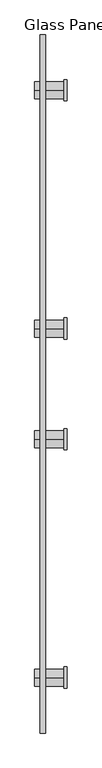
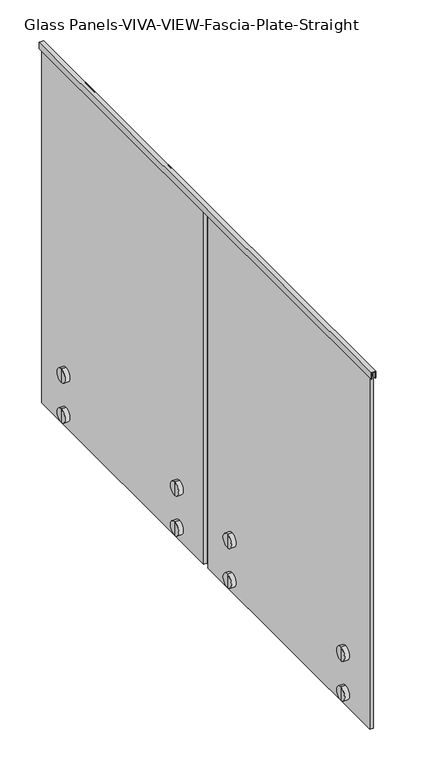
"""IFC4 building model written with IfcOpenShell, lengths in millimetres: railing geometry, Glass Panels-VIVA-VIEW-Fascia-Plate-Straight."""

from ifc_helpers import new_model, si_unit, point, frame, frame_2d, origin, place, context, project, spatial, polyline, circle_curve, trimmed, segment, composite_curve, outline, extrude, source, transform, mapped, element, save
from ifc_brep_helpers import plane_surface, cylinder_surface, advanced_brep


def glass_panels_viva_view_fascia_plate_straight_a56d03df(model_context):
    return source(origin(), model_context, "Body", "SolidModel", [
        extrude(outline(polyline([(4140.2, 38813.6017902), (4140.2, 38797.7267902), (4114.8, 38797.7267902), (4114.8, 38799.3142902), (4138.6125, 38799.3142902), (4138.6125, 38812.0142902), (4114.8, 38812.0142902), (4114.8, 38813.6017902), (4140.2, 38813.6017902)])), frame((0.0, -10275.2843115, 0.0), z_axis=(0.0, 1.0, 0.0), x_axis=(0.0, 0.0, 1.0)), (0.0, 0.0, 1.0), 2082.8),
        advanced_brep(
        [(38781.8520842, -9068.4012649, 2794.0), (38781.8520842, -9068.4012649, 2819.4), (38781.8520842, -9068.4012649, 2844.8), (38799.3145842, -9068.4012649, 2794.0), (38799.3145842, -9068.4012649, 2844.8), (38799.3145842, -9068.4012649, 2813.685), (38799.3145842, -9068.4012649, 2825.115), (38812.0145842, -9068.4012649, 2813.685), (38812.0145842, -9068.4012649, 2825.115), (38812.0145842, -9068.4012649, 2794.0), (38812.0145842, -9068.4012649, 2844.8), (38869.1644372, -9068.4012649, 2794.0), (38869.1644372, -9068.4012649, 2844.8), (38869.1644372, -9068.4012649, 2819.4)],
        [
            (0, 1),
            (1, 2),
            (2, 0, circle_curve(frame((38781.8520842, -9068.4012649, 2819.4), z_axis=(-1.0, 0.0, 0.0), x_axis=(0.0, 0.0, 1.0)), 25.4)),
            (0, 2, circle_curve(frame((38781.8520842, -9068.4012649, 2819.4), z_axis=(-1.0, 0.0, 0.0), x_axis=(0.0, 0.0, 1.0)), 25.4)),
            (3, 0),
            (2, 4),
            (4, 3, circle_curve(frame((38799.3145842, -9068.4012649, 2819.4), z_axis=(-1.0, 0.0, 0.0), x_axis=(0.0, 0.0, 1.0)), 25.4)),
            (3, 4, circle_curve(frame((38799.3145842, -9068.4012649, 2819.4), z_axis=(-1.0, 0.0, 0.0), x_axis=(0.0, 0.0, 1.0)), 25.4)),
            (5, 3),
            (4, 6),
            (6, 5, circle_curve(frame((38799.3145842, -9068.4012649, 2819.4), z_axis=(-1.0, 0.0, 0.0), x_axis=(0.0, 0.0, 1.0)), 5.715)),
            (5, 6, circle_curve(frame((38799.3145842, -9068.4012649, 2819.4), z_axis=(-1.0, 0.0, 0.0), x_axis=(0.0, 0.0, 1.0)), 5.715)),
            (7, 5),
            (6, 8),
            (8, 7, circle_curve(frame((38812.0145842, -9068.4012649, 2819.4), z_axis=(-1.0, 0.0, 0.0), x_axis=(0.0, 0.0, 1.0)), 5.715)),
            (7, 8, circle_curve(frame((38812.0145842, -9068.4012649, 2819.4), z_axis=(-1.0, 0.0, 0.0), x_axis=(0.0, 0.0, 1.0)), 5.715)),
            (9, 7),
            (8, 10),
            (10, 9, circle_curve(frame((38812.0145842, -9068.4012649, 2819.4), z_axis=(-1.0, 0.0, 0.0), x_axis=(0.0, 0.0, 1.0)), 25.4)),
            (9, 10, circle_curve(frame((38812.0145842, -9068.4012649, 2819.4), z_axis=(-1.0, 0.0, 0.0), x_axis=(0.0, 0.0, 1.0)), 25.4)),
            (11, 9),
            (10, 12),
            (12, 11, circle_curve(frame((38869.1644372, -9068.4012649, 2819.4), z_axis=(-1.0, 0.0, 0.0), x_axis=(0.0, 0.0, 1.0)), 25.4)),
            (11, 12, circle_curve(frame((38869.1644372, -9068.4012649, 2819.4), z_axis=(-1.0, 0.0, 0.0), x_axis=(0.0, 0.0, 1.0)), 25.4)),
            (13, 11),
            (12, 13),
        ],
        [
            plane_surface(frame((38781.8520842, -9068.4012649, 2819.4), z_axis=(-1.0, 0.0, 0.0), x_axis=(0.0, 0.0, 1.0))),
            cylinder_surface(frame((38713.5894372, -9068.4012649, 2819.4), z_axis=(1.0, 0.0, 0.0), x_axis=(0.0, 0.0, 1.0)), 25.4),
            plane_surface(frame((38799.3145842, -9068.4012649, 2819.4), z_axis=(1.0, 0.0, 0.0), x_axis=(0.0, 0.0, 1.0))),
            cylinder_surface(frame((38713.5894372, -9068.4012649, 2819.4), z_axis=(1.0, 0.0, 0.0), x_axis=(0.0, 0.0, 1.0)), 5.715),
            plane_surface(frame((38812.0145842, -9068.4012649, 2819.4), z_axis=(-1.0, 0.0, 0.0), x_axis=(0.0, 0.0, 1.0))),
            plane_surface(frame((38869.1644372, -9068.4012649, 2819.4), z_axis=(1.0, 0.0, 0.0), x_axis=(0.0, 0.0, 1.0))),
        ],
        [
            (0, [[1, 2, 3]]),
            (0, [[-2, -1, 4]]),
            (1, [[5, -3, 6, 7]]),
            (1, [[-6, -4, -5, 8]]),
            (2, [[9, -7, 10, 11]]),
            (2, [[-10, -8, -9, 12]]),
            (3, [[13, -11, 14, 15]]),
            (3, [[-14, -12, -13, 16]]),
            (4, [[17, -15, 18, 19]]),
            (4, [[-18, -16, -17, 20]]),
            (1, [[21, -19, 22, 23]]),
            (1, [[-22, -20, -21, 24]]),
            (5, [[25, -23, 26]]),
            (5, [[-26, -24, -25]]),
        ],
    ),
        advanced_brep(
        [(38799.3145842, -9068.4012649, 2966.085), (38799.3145842, -9068.4012649, 2946.4), (38799.3145842, -9068.4012649, 2997.2), (38799.3145842, -9068.4012649, 2977.515), (38812.0145842, -9068.4012649, 2966.085), (38812.0145842, -9068.4012649, 2977.515), (38812.0145842, -9068.4012649, 2946.4), (38812.0145842, -9068.4012649, 2997.2), (38869.1644372, -9068.4012649, 2946.4), (38869.1644372, -9068.4012649, 2997.2), (38869.1644372, -9068.4012649, 2971.8), (38781.8520842, -9068.4012649, 2946.4), (38781.8520842, -9068.4012649, 2971.8), (38781.8520842, -9068.4012649, 2997.2)],
        [
            (0, 1),
            (1, 2, circle_curve(frame((38799.3145842, -9068.4012649, 2971.8), z_axis=(1.0, 0.0, 0.0), x_axis=(0.0, 0.0, 1.0)), 25.4)),
            (2, 3),
            (3, 0, circle_curve(frame((38799.3145842, -9068.4012649, 2971.8), z_axis=(-1.0, 0.0, 0.0), x_axis=(0.0, 0.0, 1.0)), 5.715)),
            (2, 1, circle_curve(frame((38799.3145842, -9068.4012649, 2971.8), z_axis=(1.0, 0.0, 0.0), x_axis=(0.0, 0.0, 1.0)), 25.4)),
            (0, 3, circle_curve(frame((38799.3145842, -9068.4012649, 2971.8), z_axis=(-1.0, 0.0, 0.0), x_axis=(0.0, 0.0, 1.0)), 5.715)),
            (4, 0),
            (3, 5),
            (5, 4, circle_curve(frame((38812.0145842, -9068.4012649, 2971.8), z_axis=(-1.0, 0.0, 0.0), x_axis=(0.0, 0.0, 1.0)), 5.715)),
            (4, 5, circle_curve(frame((38812.0145842, -9068.4012649, 2971.8), z_axis=(-1.0, 0.0, 0.0), x_axis=(0.0, 0.0, 1.0)), 5.715)),
            (6, 4),
            (5, 7),
            (7, 6, circle_curve(frame((38812.0145842, -9068.4012649, 2971.8), z_axis=(-1.0, 0.0, 0.0), x_axis=(0.0, 0.0, 1.0)), 25.4)),
            (6, 7, circle_curve(frame((38812.0145842, -9068.4012649, 2971.8), z_axis=(-1.0, 0.0, 0.0), x_axis=(0.0, 0.0, 1.0)), 25.4)),
            (8, 6),
            (7, 9),
            (9, 8, circle_curve(frame((38869.1644372, -9068.4012649, 2971.8), z_axis=(-1.0, 0.0, 0.0), x_axis=(0.0, 0.0, 1.0)), 25.4)),
            (8, 9, circle_curve(frame((38869.1644372, -9068.4012649, 2971.8), z_axis=(-1.0, 0.0, 0.0), x_axis=(0.0, 0.0, 1.0)), 25.4)),
            (10, 8),
            (9, 10),
            (11, 12),
            (12, 13),
            (13, 11, circle_curve(frame((38781.8520842, -9068.4012649, 2971.8), z_axis=(-1.0, 0.0, 0.0), x_axis=(0.0, 0.0, 1.0)), 25.4)),
            (11, 13, circle_curve(frame((38781.8520842, -9068.4012649, 2971.8), z_axis=(-1.0, 0.0, 0.0), x_axis=(0.0, 0.0, 1.0)), 25.4)),
            (1, 11),
            (13, 2),
        ],
        [
            plane_surface(frame((38799.3145842, -9068.4012649, 2971.8), z_axis=(1.0, 0.0, 0.0), x_axis=(0.0, 0.0, 1.0))),
            cylinder_surface(frame((38713.5894372, -9068.4012649, 2971.8), z_axis=(1.0, 0.0, 0.0), x_axis=(0.0, 0.0, 1.0)), 5.715),
            plane_surface(frame((38812.0145842, -9068.4012649, 2971.8), z_axis=(-1.0, 0.0, 0.0), x_axis=(0.0, 0.0, 1.0))),
            cylinder_surface(frame((38713.5894372, -9068.4012649, 2971.8), z_axis=(1.0, 0.0, 0.0), x_axis=(0.0, 0.0, 1.0)), 25.4),
            plane_surface(frame((38869.1644372, -9068.4012649, 2971.8), z_axis=(1.0, 0.0, 0.0), x_axis=(0.0, 0.0, 1.0))),
            plane_surface(frame((38781.8520842, -9068.4012649, 2971.8), z_axis=(-1.0, 0.0, 0.0), x_axis=(0.0, 0.0, 1.0))),
        ],
        [
            (0, [[1, 2, 3, 4]]),
            (0, [[-3, 5, -1, 6]]),
            (1, [[7, -4, 8, 9]]),
            (1, [[-8, -6, -7, 10]]),
            (2, [[11, -9, 12, 13]]),
            (2, [[-12, -10, -11, 14]]),
            (3, [[15, -13, 16, 17]]),
            (3, [[-16, -14, -15, 18]]),
            (4, [[19, -17, 20]]),
            (4, [[-20, -18, -19]]),
            (5, [[21, 22, 23]]),
            (5, [[-22, -21, 24]]),
            (3, [[25, -23, 26, -2]]),
            (3, [[-26, -24, -25, -5]]),
        ],
    ),
        extrude(outline(composite_curve([segment(trimmed(circle_curve(frame_2d((-9068.4012649, 2971.8)), 31.75), [point((-9100.1512649, 2971.8))], [point((-9036.6512649, 2971.8))], False, "CARTESIAN"), True, "CONTINUOUS"), segment(polyline([(-9036.6512649, 2971.8), (-9036.6512649, 2819.4)]), True, "CONTINUOUS"), segment(trimmed(circle_curve(frame_2d((-9068.4012649, 2819.4)), 31.75), [point((-9036.6512649, 2819.4))], [point((-9100.1512649, 2819.4))], False, "CARTESIAN"), True, "CONTINUOUS"), segment(polyline([(-9100.1512649, 2819.4), (-9100.1512649, 2971.8)]), True, "CONTINUOUS")], self_intersect=False)), frame((38869.1644372, 0.0, 0.0), z_axis=(1.0, 0.0, 0.0), x_axis=(0.0, 1.0, 0.0)), (0.0, 0.0, 1.0), 9.525),
        advanced_brep(
        [(38781.8520842, -8357.2012649, 2794.0), (38781.8520842, -8357.2012649, 2819.4), (38781.8520842, -8357.2012649, 2844.8), (38799.3145842, -8357.2012649, 2794.0), (38799.3145842, -8357.2012649, 2844.8), (38799.3145842, -8357.2012649, 2813.685), (38799.3145842, -8357.2012649, 2825.115), (38812.0145842, -8357.2012649, 2813.685), (38812.0145842, -8357.2012649, 2825.115), (38812.0145842, -8357.2012649, 2794.0), (38812.0145842, -8357.2012649, 2844.8), (38869.1644372, -8357.2012649, 2794.0), (38869.1644372, -8357.2012649, 2844.8), (38869.1644372, -8357.2012649, 2819.4)],
        [
            (0, 1),
            (1, 2),
            (2, 0, circle_curve(frame((38781.8520842, -8357.2012649, 2819.4), z_axis=(-1.0, 0.0, 0.0), x_axis=(0.0, 0.0, 1.0)), 25.4)),
            (0, 2, circle_curve(frame((38781.8520842, -8357.2012649, 2819.4), z_axis=(-1.0, 0.0, 0.0), x_axis=(0.0, 0.0, 1.0)), 25.4)),
            (3, 0),
            (2, 4),
            (4, 3, circle_curve(frame((38799.3145842, -8357.2012649, 2819.4), z_axis=(-1.0, 0.0, 0.0), x_axis=(0.0, 0.0, 1.0)), 25.4)),
            (3, 4, circle_curve(frame((38799.3145842, -8357.2012649, 2819.4), z_axis=(-1.0, 0.0, 0.0), x_axis=(0.0, 0.0, 1.0)), 25.4)),
            (5, 3),
            (4, 6),
            (6, 5, circle_curve(frame((38799.3145842, -8357.2012649, 2819.4), z_axis=(-1.0, 0.0, 0.0), x_axis=(0.0, 0.0, 1.0)), 5.715)),
            (5, 6, circle_curve(frame((38799.3145842, -8357.2012649, 2819.4), z_axis=(-1.0, 0.0, 0.0), x_axis=(0.0, 0.0, 1.0)), 5.715)),
            (7, 5),
            (6, 8),
            (8, 7, circle_curve(frame((38812.0145842, -8357.2012649, 2819.4), z_axis=(-1.0, 0.0, 0.0), x_axis=(0.0, 0.0, 1.0)), 5.715)),
            (7, 8, circle_curve(frame((38812.0145842, -8357.2012649, 2819.4), z_axis=(-1.0, 0.0, 0.0), x_axis=(0.0, 0.0, 1.0)), 5.715)),
            (9, 7),
            (8, 10),
            (10, 9, circle_curve(frame((38812.0145842, -8357.2012649, 2819.4), z_axis=(-1.0, 0.0, 0.0), x_axis=(0.0, 0.0, 1.0)), 25.4)),
            (9, 10, circle_curve(frame((38812.0145842, -8357.2012649, 2819.4), z_axis=(-1.0, 0.0, 0.0), x_axis=(0.0, 0.0, 1.0)), 25.4)),
            (11, 9),
            (10, 12),
            (12, 11, circle_curve(frame((38869.1644372, -8357.2012649, 2819.4), z_axis=(-1.0, 0.0, 0.0), x_axis=(0.0, 0.0, 1.0)), 25.4)),
            (11, 12, circle_curve(frame((38869.1644372, -8357.2012649, 2819.4), z_axis=(-1.0, 0.0, 0.0), x_axis=(0.0, 0.0, 1.0)), 25.4)),
            (13, 11),
            (12, 13),
        ],
        [
            plane_surface(frame((38781.8520842, -8357.2012649, 2819.4), z_axis=(-1.0, 0.0, 0.0), x_axis=(0.0, 0.0, 1.0))),
            cylinder_surface(frame((38713.5894372, -8357.2012649, 2819.4), z_axis=(1.0, 0.0, 0.0), x_axis=(0.0, 0.0, 1.0)), 25.4),
            plane_surface(frame((38799.3145842, -8357.2012649, 2819.4), z_axis=(1.0, 0.0, 0.0), x_axis=(0.0, 0.0, 1.0))),
            cylinder_surface(frame((38713.5894372, -8357.2012649, 2819.4), z_axis=(1.0, 0.0, 0.0), x_axis=(0.0, 0.0, 1.0)), 5.715),
            plane_surface(frame((38812.0145842, -8357.2012649, 2819.4), z_axis=(-1.0, 0.0, 0.0), x_axis=(0.0, 0.0, 1.0))),
            plane_surface(frame((38869.1644372, -8357.2012649, 2819.4), z_axis=(1.0, 0.0, 0.0), x_axis=(0.0, 0.0, 1.0))),
        ],
        [
            (0, [[1, 2, 3]]),
            (0, [[-2, -1, 4]]),
            (1, [[5, -3, 6, 7]]),
            (1, [[-6, -4, -5, 8]]),
            (2, [[9, -7, 10, 11]]),
            (2, [[-10, -8, -9, 12]]),
            (3, [[13, -11, 14, 15]]),
            (3, [[-14, -12, -13, 16]]),
            (4, [[17, -15, 18, 19]]),
            (4, [[-18, -16, -17, 20]]),
            (1, [[21, -19, 22, 23]]),
            (1, [[-22, -20, -21, 24]]),
            (5, [[25, -23, 26]]),
            (5, [[-26, -24, -25]]),
        ],
    ),
        advanced_brep(
        [(38799.3145842, -8357.2012649, 2966.085), (38799.3145842, -8357.2012649, 2946.4), (38799.3145842, -8357.2012649, 2997.2), (38799.3145842, -8357.2012649, 2977.515), (38812.0145842, -8357.2012649, 2966.085), (38812.0145842, -8357.2012649, 2977.515), (38812.0145842, -8357.2012649, 2946.4), (38812.0145842, -8357.2012649, 2997.2), (38869.1644372, -8357.2012649, 2946.4), (38869.1644372, -8357.2012649, 2997.2), (38869.1644372, -8357.2012649, 2971.8), (38781.8520842, -8357.2012649, 2946.4), (38781.8520842, -8357.2012649, 2971.8), (38781.8520842, -8357.2012649, 2997.2)],
        [
            (0, 1),
            (1, 2, circle_curve(frame((38799.3145842, -8357.2012649, 2971.8), z_axis=(1.0, 0.0, 0.0), x_axis=(0.0, 0.0, 1.0)), 25.4)),
            (2, 3),
            (3, 0, circle_curve(frame((38799.3145842, -8357.2012649, 2971.8), z_axis=(-1.0, 0.0, 0.0), x_axis=(0.0, 0.0, 1.0)), 5.715)),
            (2, 1, circle_curve(frame((38799.3145842, -8357.2012649, 2971.8), z_axis=(1.0, 0.0, 0.0), x_axis=(0.0, 0.0, 1.0)), 25.4)),
            (0, 3, circle_curve(frame((38799.3145842, -8357.2012649, 2971.8), z_axis=(-1.0, 0.0, 0.0), x_axis=(0.0, 0.0, 1.0)), 5.715)),
            (4, 0),
            (3, 5),
            (5, 4, circle_curve(frame((38812.0145842, -8357.2012649, 2971.8), z_axis=(-1.0, 0.0, 0.0), x_axis=(0.0, 0.0, 1.0)), 5.715)),
            (4, 5, circle_curve(frame((38812.0145842, -8357.2012649, 2971.8), z_axis=(-1.0, 0.0, 0.0), x_axis=(0.0, 0.0, 1.0)), 5.715)),
            (6, 4),
            (5, 7),
            (7, 6, circle_curve(frame((38812.0145842, -8357.2012649, 2971.8), z_axis=(-1.0, 0.0, 0.0), x_axis=(0.0, 0.0, 1.0)), 25.4)),
            (6, 7, circle_curve(frame((38812.0145842, -8357.2012649, 2971.8), z_axis=(-1.0, 0.0, 0.0), x_axis=(0.0, 0.0, 1.0)), 25.4)),
            (8, 6),
            (7, 9),
            (9, 8, circle_curve(frame((38869.1644372, -8357.2012649, 2971.8), z_axis=(-1.0, 0.0, 0.0), x_axis=(0.0, 0.0, 1.0)), 25.4)),
            (8, 9, circle_curve(frame((38869.1644372, -8357.2012649, 2971.8), z_axis=(-1.0, 0.0, 0.0), x_axis=(0.0, 0.0, 1.0)), 25.4)),
            (10, 8),
            (9, 10),
            (11, 12),
            (12, 13),
            (13, 11, circle_curve(frame((38781.8520842, -8357.2012649, 2971.8), z_axis=(-1.0, 0.0, 0.0), x_axis=(0.0, 0.0, 1.0)), 25.4)),
            (11, 13, circle_curve(frame((38781.8520842, -8357.2012649, 2971.8), z_axis=(-1.0, 0.0, 0.0), x_axis=(0.0, 0.0, 1.0)), 25.4)),
            (1, 11),
            (13, 2),
        ],
        [
            plane_surface(frame((38799.3145842, -8357.2012649, 2971.8), z_axis=(1.0, 0.0, 0.0), x_axis=(0.0, 0.0, 1.0))),
            cylinder_surface(frame((38713.5894372, -8357.2012649, 2971.8), z_axis=(1.0, 0.0, 0.0), x_axis=(0.0, 0.0, 1.0)), 5.715),
            plane_surface(frame((38812.0145842, -8357.2012649, 2971.8), z_axis=(-1.0, 0.0, 0.0), x_axis=(0.0, 0.0, 1.0))),
            cylinder_surface(frame((38713.5894372, -8357.2012649, 2971.8), z_axis=(1.0, 0.0, 0.0), x_axis=(0.0, 0.0, 1.0)), 25.4),
            plane_surface(frame((38869.1644372, -8357.2012649, 2971.8), z_axis=(1.0, 0.0, 0.0), x_axis=(0.0, 0.0, 1.0))),
            plane_surface(frame((38781.8520842, -8357.2012649, 2971.8), z_axis=(-1.0, 0.0, 0.0), x_axis=(0.0, 0.0, 1.0))),
        ],
        [
            (0, [[1, 2, 3, 4]]),
            (0, [[-3, 5, -1, 6]]),
            (1, [[7, -4, 8, 9]]),
            (1, [[-8, -6, -7, 10]]),
            (2, [[11, -9, 12, 13]]),
            (2, [[-12, -10, -11, 14]]),
            (3, [[15, -13, 16, 17]]),
            (3, [[-16, -14, -15, 18]]),
            (4, [[19, -17, 20]]),
            (4, [[-20, -18, -19]]),
            (5, [[21, 22, 23]]),
            (5, [[-22, -21, 24]]),
            (3, [[25, -23, 26, -2]]),
            (3, [[-26, -24, -25, -5]]),
        ],
    ),
        extrude(outline(composite_curve([segment(trimmed(circle_curve(frame_2d((-8357.2012649, 2971.8)), 31.75), [point((-8388.9512649, 2971.8))], [point((-8325.4512649, 2971.8))], False, "CARTESIAN"), True, "CONTINUOUS"), segment(polyline([(-8325.4512649, 2971.8), (-8325.4512649, 2819.4)]), True, "CONTINUOUS"), segment(trimmed(circle_curve(frame_2d((-8357.2012649, 2819.4)), 31.75), [point((-8325.4512649, 2819.4))], [point((-8388.9512649, 2819.4))], False, "CARTESIAN"), True, "CONTINUOUS"), segment(polyline([(-8388.9512649, 2819.4), (-8388.9512649, 2971.8)]), True, "CONTINUOUS")], self_intersect=False)), frame((38869.1644372, 0.0, 0.0), z_axis=(1.0, 0.0, 0.0), x_axis=(0.0, 1.0, 0.0)), (0.0, 0.0, 1.0), 9.525),
        extrude(outline(polyline([(38812.0142902, -9220.8012649), (38799.3142902, -9220.8012649), (38799.3142902, -8204.8012649), (38812.0142902, -8204.8012649), (38812.0142902, -9220.8012649)])), frame((0.0, 0.0, 2768.6), z_axis=(0.0, 0.0, 1.0), x_axis=(1.0, 0.0, 0.0)), (0.0, 0.0, 1.0), 1370.0125),
        advanced_brep(
        [(38781.8520842, -10109.8012649, 2794.0), (38781.8520842, -10109.8012649, 2819.4), (38781.8520842, -10109.8012649, 2844.8), (38799.3145842, -10109.8012649, 2794.0), (38799.3145842, -10109.8012649, 2844.8), (38799.3145842, -10109.8012649, 2813.685), (38799.3145842, -10109.8012649, 2825.115), (38812.0145842, -10109.8012649, 2813.685), (38812.0145842, -10109.8012649, 2825.115), (38812.0145842, -10109.8012649, 2794.0), (38812.0145842, -10109.8012649, 2844.8), (38869.1644372, -10109.8012649, 2794.0), (38869.1644372, -10109.8012649, 2844.8), (38869.1644372, -10109.8012649, 2819.4)],
        [
            (0, 1),
            (1, 2),
            (2, 0, circle_curve(frame((38781.8520842, -10109.8012649, 2819.4), z_axis=(-1.0, 0.0, 0.0), x_axis=(0.0, 0.0, 1.0)), 25.4)),
            (0, 2, circle_curve(frame((38781.8520842, -10109.8012649, 2819.4), z_axis=(-1.0, 0.0, 0.0), x_axis=(0.0, 0.0, 1.0)), 25.4)),
            (3, 0),
            (2, 4),
            (4, 3, circle_curve(frame((38799.3145842, -10109.8012649, 2819.4), z_axis=(-1.0, 0.0, 0.0), x_axis=(0.0, 0.0, 1.0)), 25.4)),
            (3, 4, circle_curve(frame((38799.3145842, -10109.8012649, 2819.4), z_axis=(-1.0, 0.0, 0.0), x_axis=(0.0, 0.0, 1.0)), 25.4)),
            (5, 3),
            (4, 6),
            (6, 5, circle_curve(frame((38799.3145842, -10109.8012649, 2819.4), z_axis=(-1.0, 0.0, 0.0), x_axis=(0.0, 0.0, 1.0)), 5.715)),
            (5, 6, circle_curve(frame((38799.3145842, -10109.8012649, 2819.4), z_axis=(-1.0, 0.0, 0.0), x_axis=(0.0, 0.0, 1.0)), 5.715)),
            (7, 5),
            (6, 8),
            (8, 7, circle_curve(frame((38812.0145842, -10109.8012649, 2819.4), z_axis=(-1.0, 0.0, 0.0), x_axis=(0.0, 0.0, 1.0)), 5.715)),
            (7, 8, circle_curve(frame((38812.0145842, -10109.8012649, 2819.4), z_axis=(-1.0, 0.0, 0.0), x_axis=(0.0, 0.0, 1.0)), 5.715)),
            (9, 7),
            (8, 10),
            (10, 9, circle_curve(frame((38812.0145842, -10109.8012649, 2819.4), z_axis=(-1.0, 0.0, 0.0), x_axis=(0.0, 0.0, 1.0)), 25.4)),
            (9, 10, circle_curve(frame((38812.0145842, -10109.8012649, 2819.4), z_axis=(-1.0, 0.0, 0.0), x_axis=(0.0, 0.0, 1.0)), 25.4)),
            (11, 9),
            (10, 12),
            (12, 11, circle_curve(frame((38869.1644372, -10109.8012649, 2819.4), z_axis=(-1.0, 0.0, 0.0), x_axis=(0.0, 0.0, 1.0)), 25.4)),
            (11, 12, circle_curve(frame((38869.1644372, -10109.8012649, 2819.4), z_axis=(-1.0, 0.0, 0.0), x_axis=(0.0, 0.0, 1.0)), 25.4)),
            (13, 11),
            (12, 13),
        ],
        [
            plane_surface(frame((38781.8520842, -10109.8012649, 2819.4), z_axis=(-1.0, 0.0, 0.0), x_axis=(0.0, 0.0, 1.0))),
            cylinder_surface(frame((38713.5894372, -10109.8012649, 2819.4), z_axis=(1.0, 0.0, 0.0), x_axis=(0.0, 0.0, 1.0)), 25.4),
            plane_surface(frame((38799.3145842, -10109.8012649, 2819.4), z_axis=(1.0, 0.0, 0.0), x_axis=(0.0, 0.0, 1.0))),
            cylinder_surface(frame((38713.5894372, -10109.8012649, 2819.4), z_axis=(1.0, 0.0, 0.0), x_axis=(0.0, 0.0, 1.0)), 5.715),
            plane_surface(frame((38812.0145842, -10109.8012649, 2819.4), z_axis=(-1.0, 0.0, 0.0), x_axis=(0.0, 0.0, 1.0))),
            plane_surface(frame((38869.1644372, -10109.8012649, 2819.4), z_axis=(1.0, 0.0, 0.0), x_axis=(0.0, 0.0, 1.0))),
        ],
        [
            (0, [[1, 2, 3]]),
            (0, [[-2, -1, 4]]),
            (1, [[5, -3, 6, 7]]),
            (1, [[-6, -4, -5, 8]]),
            (2, [[9, -7, 10, 11]]),
            (2, [[-10, -8, -9, 12]]),
            (3, [[13, -11, 14, 15]]),
            (3, [[-14, -12, -13, 16]]),
            (4, [[17, -15, 18, 19]]),
            (4, [[-18, -16, -17, 20]]),
            (1, [[21, -19, 22, 23]]),
            (1, [[-22, -20, -21, 24]]),
            (5, [[25, -23, 26]]),
            (5, [[-26, -24, -25]]),
        ],
    ),
        advanced_brep(
        [(38799.3145842, -10109.8012649, 2966.085), (38799.3145842, -10109.8012649, 2946.4), (38799.3145842, -10109.8012649, 2997.2), (38799.3145842, -10109.8012649, 2977.515), (38812.0145842, -10109.8012649, 2966.085), (38812.0145842, -10109.8012649, 2977.515), (38812.0145842, -10109.8012649, 2946.4), (38812.0145842, -10109.8012649, 2997.2), (38869.1644372, -10109.8012649, 2946.4), (38869.1644372, -10109.8012649, 2997.2), (38869.1644372, -10109.8012649, 2971.8), (38781.8520842, -10109.8012649, 2946.4), (38781.8520842, -10109.8012649, 2971.8), (38781.8520842, -10109.8012649, 2997.2)],
        [
            (0, 1),
            (1, 2, circle_curve(frame((38799.3145842, -10109.8012649, 2971.8), z_axis=(1.0, 0.0, 0.0), x_axis=(0.0, 0.0, 1.0)), 25.4)),
            (2, 3),
            (3, 0, circle_curve(frame((38799.3145842, -10109.8012649, 2971.8), z_axis=(-1.0, 0.0, 0.0), x_axis=(0.0, 0.0, 1.0)), 5.715)),
            (2, 1, circle_curve(frame((38799.3145842, -10109.8012649, 2971.8), z_axis=(1.0, 0.0, 0.0), x_axis=(0.0, 0.0, 1.0)), 25.4)),
            (0, 3, circle_curve(frame((38799.3145842, -10109.8012649, 2971.8), z_axis=(-1.0, 0.0, 0.0), x_axis=(0.0, 0.0, 1.0)), 5.715)),
            (4, 0),
            (3, 5),
            (5, 4, circle_curve(frame((38812.0145842, -10109.8012649, 2971.8), z_axis=(-1.0, 0.0, 0.0), x_axis=(0.0, 0.0, 1.0)), 5.715)),
            (4, 5, circle_curve(frame((38812.0145842, -10109.8012649, 2971.8), z_axis=(-1.0, 0.0, 0.0), x_axis=(0.0, 0.0, 1.0)), 5.715)),
            (6, 4),
            (5, 7),
            (7, 6, circle_curve(frame((38812.0145842, -10109.8012649, 2971.8), z_axis=(-1.0, 0.0, 0.0), x_axis=(0.0, 0.0, 1.0)), 25.4)),
            (6, 7, circle_curve(frame((38812.0145842, -10109.8012649, 2971.8), z_axis=(-1.0, 0.0, 0.0), x_axis=(0.0, 0.0, 1.0)), 25.4)),
            (8, 6),
            (7, 9),
            (9, 8, circle_curve(frame((38869.1644372, -10109.8012649, 2971.8), z_axis=(-1.0, 0.0, 0.0), x_axis=(0.0, 0.0, 1.0)), 25.4)),
            (8, 9, circle_curve(frame((38869.1644372, -10109.8012649, 2971.8), z_axis=(-1.0, 0.0, 0.0), x_axis=(0.0, 0.0, 1.0)), 25.4)),
            (10, 8),
            (9, 10),
            (11, 12),
            (12, 13),
            (13, 11, circle_curve(frame((38781.8520842, -10109.8012649, 2971.8), z_axis=(-1.0, 0.0, 0.0), x_axis=(0.0, 0.0, 1.0)), 25.4)),
            (11, 13, circle_curve(frame((38781.8520842, -10109.8012649, 2971.8), z_axis=(-1.0, 0.0, 0.0), x_axis=(0.0, 0.0, 1.0)), 25.4)),
            (1, 11),
            (13, 2),
        ],
        [
            plane_surface(frame((38799.3145842, -10109.8012649, 2971.8), z_axis=(1.0, 0.0, 0.0), x_axis=(0.0, 0.0, 1.0))),
            cylinder_surface(frame((38713.5894372, -10109.8012649, 2971.8), z_axis=(1.0, 0.0, 0.0), x_axis=(0.0, 0.0, 1.0)), 5.715),
            plane_surface(frame((38812.0145842, -10109.8012649, 2971.8), z_axis=(-1.0, 0.0, 0.0), x_axis=(0.0, 0.0, 1.0))),
            cylinder_surface(frame((38713.5894372, -10109.8012649, 2971.8), z_axis=(1.0, 0.0, 0.0), x_axis=(0.0, 0.0, 1.0)), 25.4),
            plane_surface(frame((38869.1644372, -10109.8012649, 2971.8), z_axis=(1.0, 0.0, 0.0), x_axis=(0.0, 0.0, 1.0))),
            plane_surface(frame((38781.8520842, -10109.8012649, 2971.8), z_axis=(-1.0, 0.0, 0.0), x_axis=(0.0, 0.0, 1.0))),
        ],
        [
            (0, [[1, 2, 3, 4]]),
            (0, [[-3, 5, -1, 6]]),
            (1, [[7, -4, 8, 9]]),
            (1, [[-8, -6, -7, 10]]),
            (2, [[11, -9, 12, 13]]),
            (2, [[-12, -10, -11, 14]]),
            (3, [[15, -13, 16, 17]]),
            (3, [[-16, -14, -15, 18]]),
            (4, [[19, -17, 20]]),
            (4, [[-20, -18, -19]]),
            (5, [[21, 22, 23]]),
            (5, [[-22, -21, 24]]),
            (3, [[25, -23, 26, -2]]),
            (3, [[-26, -24, -25, -5]]),
        ],
    ),
        extrude(outline(composite_curve([segment(trimmed(circle_curve(frame_2d((-10109.8012649, 2971.8)), 31.75), [point((-10141.5512649, 2971.8))], [point((-10078.0512649, 2971.8))], False, "CARTESIAN"), True, "CONTINUOUS"), segment(polyline([(-10078.0512649, 2971.8), (-10078.0512649, 2819.4)]), True, "CONTINUOUS"), segment(trimmed(circle_curve(frame_2d((-10109.8012649, 2819.4)), 31.75), [point((-10078.0512649, 2819.4))], [point((-10141.5512649, 2819.4))], False, "CARTESIAN"), True, "CONTINUOUS"), segment(polyline([(-10141.5512649, 2819.4), (-10141.5512649, 2971.8)]), True, "CONTINUOUS")], self_intersect=False)), frame((38869.1644372, 0.0, 0.0), z_axis=(1.0, 0.0, 0.0), x_axis=(0.0, 1.0, 0.0)), (0.0, 0.0, 1.0), 9.525),
        advanced_brep(
        [(38781.8520842, -9398.6012649, 2794.0), (38781.8520842, -9398.6012649, 2819.4), (38781.8520842, -9398.6012649, 2844.8), (38799.3145842, -9398.6012649, 2794.0), (38799.3145842, -9398.6012649, 2844.8), (38799.3145842, -9398.6012649, 2813.685), (38799.3145842, -9398.6012649, 2825.115), (38812.0145842, -9398.6012649, 2813.685), (38812.0145842, -9398.6012649, 2825.115), (38812.0145842, -9398.6012649, 2794.0), (38812.0145842, -9398.6012649, 2844.8), (38869.1644372, -9398.6012649, 2794.0), (38869.1644372, -9398.6012649, 2844.8), (38869.1644372, -9398.6012649, 2819.4)],
        [
            (0, 1),
            (1, 2),
            (2, 0, circle_curve(frame((38781.8520842, -9398.6012649, 2819.4), z_axis=(-1.0, 0.0, 0.0), x_axis=(0.0, 0.0, 1.0)), 25.4)),
            (0, 2, circle_curve(frame((38781.8520842, -9398.6012649, 2819.4), z_axis=(-1.0, 0.0, 0.0), x_axis=(0.0, 0.0, 1.0)), 25.4)),
            (3, 0),
            (2, 4),
            (4, 3, circle_curve(frame((38799.3145842, -9398.6012649, 2819.4), z_axis=(-1.0, 0.0, 0.0), x_axis=(0.0, 0.0, 1.0)), 25.4)),
            (3, 4, circle_curve(frame((38799.3145842, -9398.6012649, 2819.4), z_axis=(-1.0, 0.0, 0.0), x_axis=(0.0, 0.0, 1.0)), 25.4)),
            (5, 3),
            (4, 6),
            (6, 5, circle_curve(frame((38799.3145842, -9398.6012649, 2819.4), z_axis=(-1.0, 0.0, 0.0), x_axis=(0.0, 0.0, 1.0)), 5.715)),
            (5, 6, circle_curve(frame((38799.3145842, -9398.6012649, 2819.4), z_axis=(-1.0, 0.0, 0.0), x_axis=(0.0, 0.0, 1.0)), 5.715)),
            (7, 5),
            (6, 8),
            (8, 7, circle_curve(frame((38812.0145842, -9398.6012649, 2819.4), z_axis=(-1.0, 0.0, 0.0), x_axis=(0.0, 0.0, 1.0)), 5.715)),
            (7, 8, circle_curve(frame((38812.0145842, -9398.6012649, 2819.4), z_axis=(-1.0, 0.0, 0.0), x_axis=(0.0, 0.0, 1.0)), 5.715)),
            (9, 7),
            (8, 10),
            (10, 9, circle_curve(frame((38812.0145842, -9398.6012649, 2819.4), z_axis=(-1.0, 0.0, 0.0), x_axis=(0.0, 0.0, 1.0)), 25.4)),
            (9, 10, circle_curve(frame((38812.0145842, -9398.6012649, 2819.4), z_axis=(-1.0, 0.0, 0.0), x_axis=(0.0, 0.0, 1.0)), 25.4)),
            (11, 9),
            (10, 12),
            (12, 11, circle_curve(frame((38869.1644372, -9398.6012649, 2819.4), z_axis=(-1.0, 0.0, 0.0), x_axis=(0.0, 0.0, 1.0)), 25.4)),
            (11, 12, circle_curve(frame((38869.1644372, -9398.6012649, 2819.4), z_axis=(-1.0, 0.0, 0.0), x_axis=(0.0, 0.0, 1.0)), 25.4)),
            (13, 11),
            (12, 13),
        ],
        [
            plane_surface(frame((38781.8520842, -9398.6012649, 2819.4), z_axis=(-1.0, 0.0, 0.0), x_axis=(0.0, 0.0, 1.0))),
            cylinder_surface(frame((38713.5894372, -9398.6012649, 2819.4), z_axis=(1.0, 0.0, 0.0), x_axis=(0.0, 0.0, 1.0)), 25.4),
            plane_surface(frame((38799.3145842, -9398.6012649, 2819.4), z_axis=(1.0, 0.0, 0.0), x_axis=(0.0, 0.0, 1.0))),
            cylinder_surface(frame((38713.5894372, -9398.6012649, 2819.4), z_axis=(1.0, 0.0, 0.0), x_axis=(0.0, 0.0, 1.0)), 5.715),
            plane_surface(frame((38812.0145842, -9398.6012649, 2819.4), z_axis=(-1.0, 0.0, 0.0), x_axis=(0.0, 0.0, 1.0))),
            plane_surface(frame((38869.1644372, -9398.6012649, 2819.4), z_axis=(1.0, 0.0, 0.0), x_axis=(0.0, 0.0, 1.0))),
        ],
        [
            (0, [[1, 2, 3]]),
            (0, [[-2, -1, 4]]),
            (1, [[5, -3, 6, 7]]),
            (1, [[-6, -4, -5, 8]]),
            (2, [[9, -7, 10, 11]]),
            (2, [[-10, -8, -9, 12]]),
            (3, [[13, -11, 14, 15]]),
            (3, [[-14, -12, -13, 16]]),
            (4, [[17, -15, 18, 19]]),
            (4, [[-18, -16, -17, 20]]),
            (1, [[21, -19, 22, 23]]),
            (1, [[-22, -20, -21, 24]]),
            (5, [[25, -23, 26]]),
            (5, [[-26, -24, -25]]),
        ],
    ),
        advanced_brep(
        [(38799.3145842, -9398.6012649, 2966.085), (38799.3145842, -9398.6012649, 2946.4), (38799.3145842, -9398.6012649, 2997.2), (38799.3145842, -9398.6012649, 2977.515), (38812.0145842, -9398.6012649, 2966.085), (38812.0145842, -9398.6012649, 2977.515), (38812.0145842, -9398.6012649, 2946.4), (38812.0145842, -9398.6012649, 2997.2), (38869.1644372, -9398.6012649, 2946.4), (38869.1644372, -9398.6012649, 2997.2), (38869.1644372, -9398.6012649, 2971.8), (38781.8520842, -9398.6012649, 2946.4), (38781.8520842, -9398.6012649, 2971.8), (38781.8520842, -9398.6012649, 2997.2)],
        [
            (0, 1),
            (1, 2, circle_curve(frame((38799.3145842, -9398.6012649, 2971.8), z_axis=(1.0, 0.0, 0.0), x_axis=(0.0, 0.0, 1.0)), 25.4)),
            (2, 3),
            (3, 0, circle_curve(frame((38799.3145842, -9398.6012649, 2971.8), z_axis=(-1.0, 0.0, 0.0), x_axis=(0.0, 0.0, 1.0)), 5.715)),
            (2, 1, circle_curve(frame((38799.3145842, -9398.6012649, 2971.8), z_axis=(1.0, 0.0, 0.0), x_axis=(0.0, 0.0, 1.0)), 25.4)),
            (0, 3, circle_curve(frame((38799.3145842, -9398.6012649, 2971.8), z_axis=(-1.0, 0.0, 0.0), x_axis=(0.0, 0.0, 1.0)), 5.715)),
            (4, 0),
            (3, 5),
            (5, 4, circle_curve(frame((38812.0145842, -9398.6012649, 2971.8), z_axis=(-1.0, 0.0, 0.0), x_axis=(0.0, 0.0, 1.0)), 5.715)),
            (4, 5, circle_curve(frame((38812.0145842, -9398.6012649, 2971.8), z_axis=(-1.0, 0.0, 0.0), x_axis=(0.0, 0.0, 1.0)), 5.715)),
            (6, 4),
            (5, 7),
            (7, 6, circle_curve(frame((38812.0145842, -9398.6012649, 2971.8), z_axis=(-1.0, 0.0, 0.0), x_axis=(0.0, 0.0, 1.0)), 25.4)),
            (6, 7, circle_curve(frame((38812.0145842, -9398.6012649, 2971.8), z_axis=(-1.0, 0.0, 0.0), x_axis=(0.0, 0.0, 1.0)), 25.4)),
            (8, 6),
            (7, 9),
            (9, 8, circle_curve(frame((38869.1644372, -9398.6012649, 2971.8), z_axis=(-1.0, 0.0, 0.0), x_axis=(0.0, 0.0, 1.0)), 25.4)),
            (8, 9, circle_curve(frame((38869.1644372, -9398.6012649, 2971.8), z_axis=(-1.0, 0.0, 0.0), x_axis=(0.0, 0.0, 1.0)), 25.4)),
            (10, 8),
            (9, 10),
            (11, 12),
            (12, 13),
            (13, 11, circle_curve(frame((38781.8520842, -9398.6012649, 2971.8), z_axis=(-1.0, 0.0, 0.0), x_axis=(0.0, 0.0, 1.0)), 25.4)),
            (11, 13, circle_curve(frame((38781.8520842, -9398.6012649, 2971.8), z_axis=(-1.0, 0.0, 0.0), x_axis=(0.0, 0.0, 1.0)), 25.4)),
            (1, 11),
            (13, 2),
        ],
        [
            plane_surface(frame((38799.3145842, -9398.6012649, 2971.8), z_axis=(1.0, 0.0, 0.0), x_axis=(0.0, 0.0, 1.0))),
            cylinder_surface(frame((38713.5894372, -9398.6012649, 2971.8), z_axis=(1.0, 0.0, 0.0), x_axis=(0.0, 0.0, 1.0)), 5.715),
            plane_surface(frame((38812.0145842, -9398.6012649, 2971.8), z_axis=(-1.0, 0.0, 0.0), x_axis=(0.0, 0.0, 1.0))),
            cylinder_surface(frame((38713.5894372, -9398.6012649, 2971.8), z_axis=(1.0, 0.0, 0.0), x_axis=(0.0, 0.0, 1.0)), 25.4),
            plane_surface(frame((38869.1644372, -9398.6012649, 2971.8), z_axis=(1.0, 0.0, 0.0), x_axis=(0.0, 0.0, 1.0))),
            plane_surface(frame((38781.8520842, -9398.6012649, 2971.8), z_axis=(-1.0, 0.0, 0.0), x_axis=(0.0, 0.0, 1.0))),
        ],
        [
            (0, [[1, 2, 3, 4]]),
            (0, [[-3, 5, -1, 6]]),
            (1, [[7, -4, 8, 9]]),
            (1, [[-8, -6, -7, 10]]),
            (2, [[11, -9, 12, 13]]),
            (2, [[-12, -10, -11, 14]]),
            (3, [[15, -13, 16, 17]]),
            (3, [[-16, -14, -15, 18]]),
            (4, [[19, -17, 20]]),
            (4, [[-20, -18, -19]]),
            (5, [[21, 22, 23]]),
            (5, [[-22, -21, 24]]),
            (3, [[25, -23, 26, -2]]),
            (3, [[-26, -24, -25, -5]]),
        ],
    ),
        extrude(outline(composite_curve([segment(trimmed(circle_curve(frame_2d((-9398.6012649, 2971.8)), 31.75), [point((-9430.3512649, 2971.8))], [point((-9366.8512649, 2971.8))], False, "CARTESIAN"), True, "CONTINUOUS"), segment(polyline([(-9366.8512649, 2971.8), (-9366.8512649, 2819.4)]), True, "CONTINUOUS"), segment(trimmed(circle_curve(frame_2d((-9398.6012649, 2819.4)), 31.75), [point((-9366.8512649, 2819.4))], [point((-9430.3512649, 2819.4))], False, "CARTESIAN"), True, "CONTINUOUS"), segment(polyline([(-9430.3512649, 2819.4), (-9430.3512649, 2971.8)]), True, "CONTINUOUS")], self_intersect=False)), frame((38869.1644372, 0.0, 0.0), z_axis=(1.0, 0.0, 0.0), x_axis=(0.0, 1.0, 0.0)), (0.0, 0.0, 1.0), 9.525),
        extrude(outline(polyline([(38812.0142902, -10262.2012649), (38799.3142902, -10262.2012649), (38799.3142902, -9246.2012649), (38812.0142902, -9246.2012649), (38812.0142902, -10262.2012649)])), frame((0.0, 0.0, 2768.6), z_axis=(0.0, 0.0, 1.0), x_axis=(1.0, 0.0, 0.0)), (0.0, 0.0, 1.0), 1370.0125),
    ])


if __name__ == "__main__":
    model = new_model("IFC4")
    model_context = context("Model", 3, world=origin())
    ifc_project = project(units=[si_unit("LENGTHUNIT", "METRE", prefix="MILLI")], contexts=[model_context])
    site = spatial("IfcSite", under=ifc_project)
    building = spatial("IfcBuilding", under=site)
    placement = place(None, origin())
    glass_panels_viva_view_fascia_plate_straight_shape = glass_panels_viva_view_fascia_plate_straight_a56d03df(model_context)
    element("IfcRailing", 1, ObjectType="Glass Panels-VIVA-VIEW-Fascia-Plate-Straight", at=placement, inside=building, context=model_context, shape_type="MappedRepresentation", body=[
        mapped(glass_panels_viva_view_fascia_plate_straight_shape, transform((0.0, 0.0, 0.0), x_axis=(1.0, 0.0, 0.0), y_axis=(0.0, 1.0, 0.0), z_axis=(0.0, 0.0, 1.0))),
    ])
    save(model, "model.ifc")
